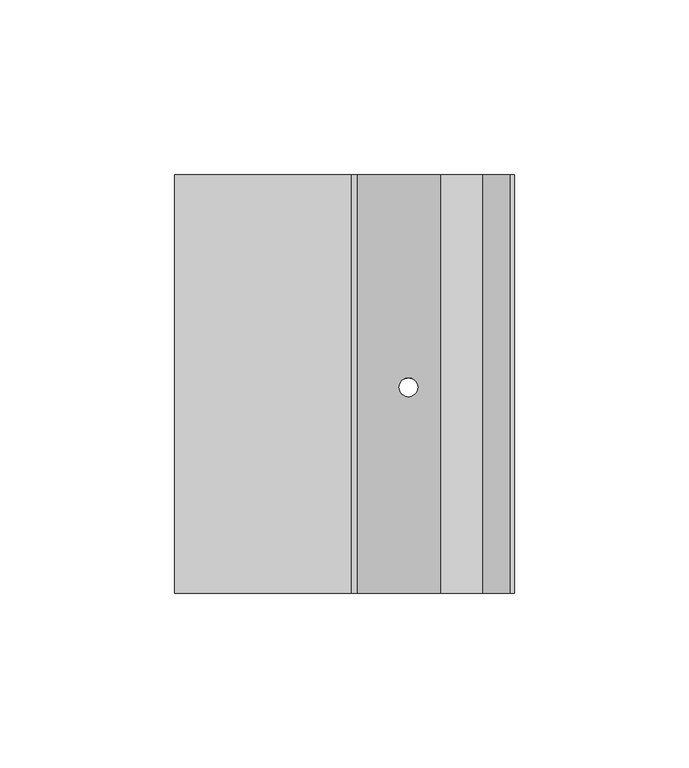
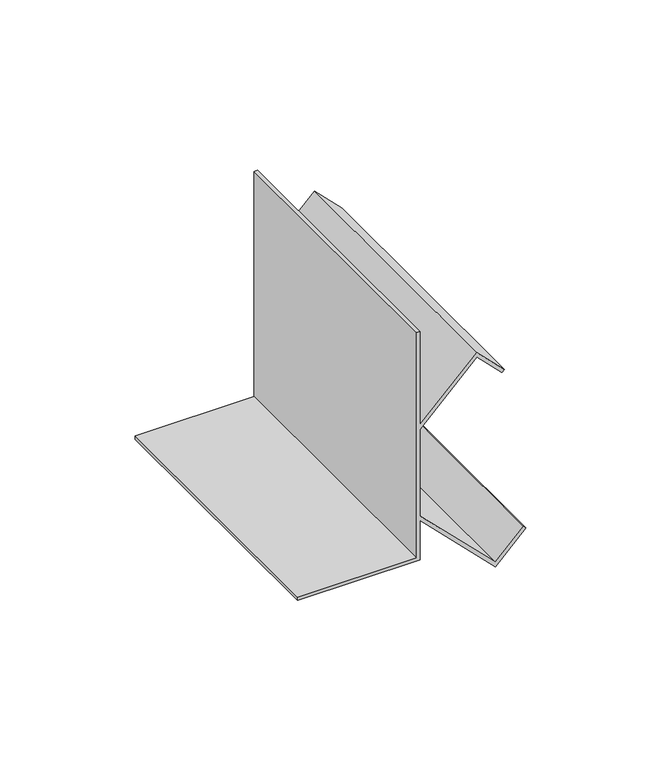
"""IFC4 building model written with IfcOpenShell, lengths in millimetres: proxy geometry, Mechanical Fittings & Accessories23 : Mechanical Fittings & Accessories."""

from ifc_helpers import new_model, si_unit, frame, origin, place, context, project, spatial, polyline, ellipse_curve, source, transform, mapped, element, save
from ifc_brep_helpers import plane_surface, revolved_surface, advanced_brep


def generic_models_94454468(model_context):
    return source(origin(), model_context, "Body", "AdvancedBrep", [
        advanced_brep(
        [(-13439.8639562, 3322.4963986, 4114.8), (-13490.6639562, 3322.4963986, 4114.8), (-13490.6639562, 3322.4963986, 4113.3117188), (-13438.375675, 3322.4963986, 4113.3117188), (-13438.375675, 3322.4963986, 4131.1383509), (-13406.265914, 3322.4963986, 4099.0285899), (-13393.2869427, 3322.4963986, 4112.0075612), (-13394.3393164, 3322.4963986, 4113.059935), (-13406.265914, 3322.4963986, 4101.1333374), (-13438.375675, 3322.4963986, 4133.2430984), (-13438.375675, 3322.4963986, 4172.2761118), (-13414.203414, 3322.4963986, 4196.4483729), (-13403.4674414, 3322.4963986, 4185.7124003), (-13402.4150677, 3322.4963986, 4186.7647741), (-13414.203414, 3322.4963986, 4198.5531204), (-13438.375675, 3322.4963986, 4174.3808594), (-13438.375675, 3322.4963986, 4216.4), (-13439.8639562, 3322.4963986, 4216.4), (-13439.8639562, 3442.4645457, 4114.8), (-13439.8639562, 3442.4645457, 4216.4), (-13438.375675, 3442.4645457, 4216.4), (-13438.375675, 3442.4645457, 4174.3808594), (-13414.203414, 3442.4645457, 4198.5531204), (-13402.4150677, 3442.4645457, 4186.7647741), (-13403.4674414, 3442.4645457, 4185.7124003), (-13414.203414, 3442.4645457, 4196.4483729), (-13438.375675, 3442.4645457, 4172.2761118), (-13438.375675, 3442.4645457, 4133.2430984), (-13406.265914, 3442.4645457, 4101.1333374), (-13394.3393164, 3442.4645457, 4113.059935), (-13393.2869427, 3442.4645457, 4112.0075612), (-13406.265914, 3442.4645457, 4099.0285899), (-13438.375675, 3442.4645457, 4131.1383509), (-13438.375675, 3442.4645457, 4113.3117188), (-13490.6639562, 3442.4645457, 4113.3117188), (-13490.6639562, 3442.4645457, 4114.8), (-13426.2617646, 3381.5191481, 4119.0244406), (-13420.9223978, 3381.5191481, 4113.6850737), (-13420.9223978, 3381.5191481, 4115.7898213), (-13426.2617646, 3381.5191481, 4121.1291881), (-13426.2617646, 3381.5191481, 4184.3900222), (-13420.9223978, 3381.5191481, 4189.729389), (-13420.9223978, 3381.5191481, 4191.8341365), (-13426.2617646, 3381.5191481, 4186.4947697)],
        [
            (0, 1),
            (1, 2),
            (2, 3),
            (3, 4),
            (4, 5),
            (5, 6),
            (6, 7),
            (7, 8),
            (8, 9),
            (9, 10),
            (10, 11),
            (11, 12),
            (12, 13),
            (13, 14),
            (14, 15),
            (15, 16),
            (16, 17),
            (17, 0),
            (18, 19),
            (19, 20),
            (20, 21),
            (21, 22),
            (22, 23),
            (23, 24),
            (24, 25),
            (25, 26),
            (26, 27),
            (27, 28),
            (28, 29),
            (29, 30),
            (30, 31),
            (31, 32),
            (32, 33),
            (33, 34),
            (34, 35),
            (35, 18),
            (0, 18),
            (35, 1),
            (34, 2),
            (33, 3),
            (32, 4),
            (31, 5),
            (36, 37, ellipse_curve(frame((-13423.5920812, 3381.5191481, 4116.3547571), z_axis=(0.7071067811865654, 0.0, 0.7071067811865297), x_axis=(-0.7071067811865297, 0.0, 0.7071067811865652)), 3.7755025, 2.6696834)),
            (37, 36, ellipse_curve(frame((-13423.5920812, 3381.5191481, 4116.3547571), z_axis=(0.7071067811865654, 0.0, 0.7071067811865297), x_axis=(-0.7071067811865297, 0.0, 0.7071067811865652)), 3.7755025, 2.6696834)),
            (30, 6),
            (29, 7),
            (28, 8),
            (27, 9),
            (38, 39, ellipse_curve(frame((-13423.5920812, 3381.5191481, 4118.4595047), z_axis=(-0.7071067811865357, 0.0, -0.7071067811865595), x_axis=(-0.7071067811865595, 0.0, 0.7071067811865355)), 3.7755025, 2.6696834)),
            (39, 38, ellipse_curve(frame((-13423.5920812, 3381.5191481, 4118.4595047), z_axis=(-0.7071067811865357, 0.0, -0.7071067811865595), x_axis=(-0.7071067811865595, 0.0, 0.7071067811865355)), 3.7755025, 2.6696834)),
            (26, 10),
            (25, 11),
            (40, 41, ellipse_curve(frame((-13423.5920812, 3381.5191481, 4187.0597056), z_axis=(-0.7071067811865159, 0.0, 0.7071067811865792), x_axis=(0.7071067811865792, 0.0, 0.7071067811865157)), 3.7755025, 2.6696834)),
            (41, 40, ellipse_curve(frame((-13423.5920812, 3381.5191481, 4187.0597056), z_axis=(-0.7071067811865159, 0.0, 0.7071067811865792), x_axis=(0.7071067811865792, 0.0, 0.7071067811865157)), 3.7755025, 2.6696834)),
            (24, 12),
            (23, 13),
            (22, 14),
            (21, 15),
            (42, 43, ellipse_curve(frame((-13423.5920812, 3381.5191481, 4189.1644531), z_axis=(0.7071067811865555, 0.0, -0.7071067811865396), x_axis=(0.7071067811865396, 0.0, 0.7071067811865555)), 3.7755025, 2.6696834)),
            (43, 42, ellipse_curve(frame((-13423.5920812, 3381.5191481, 4189.1644531), z_axis=(0.7071067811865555, 0.0, -0.7071067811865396), x_axis=(0.7071067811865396, 0.0, 0.7071067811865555)), 3.7755025, 2.6696834)),
            (20, 16),
            (19, 17),
            (36, 39),
            (38, 37),
            (40, 43),
            (42, 41),
        ],
        [
            plane_surface(frame((-13490.6639562, 3322.4963986, 4114.8), z_axis=(0.0, -1.0, 0.0), x_axis=(-1.0, 0.0, 0.0))),
            plane_surface(frame((-13490.6639562, 3442.4645457, 4114.8), z_axis=(0.0, 1.0, 0.0), x_axis=(1.0, 0.0, 0.0))),
            plane_surface(frame((-13439.8639562, 3322.4963986, 4114.8), z_axis=(0.0, 0.0, 1.0), x_axis=(0.0, 1.0, 0.0))),
            plane_surface(frame((-13490.6639562, 3322.4963986, 4114.8), z_axis=(-1.0, 0.0, 0.0), x_axis=(0.0, 1.0, 0.0))),
            plane_surface(frame((-13490.6639562, 3322.4963986, 4113.3117188), z_axis=(0.0, 0.0, -1.0), x_axis=(0.0, 1.0, 0.0))),
            plane_surface(frame((-13438.375675, 3322.4963986, 4113.3117188), z_axis=(1.0, 0.0, 0.0), x_axis=(0.0, 1.0, 0.0))),
            plane_surface(frame((-13438.375675, 3322.4963986, 4131.1383509), z_axis=(-0.7071067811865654, 0.0, -0.7071067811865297), x_axis=(0.0, 1.0, 0.0))),
            plane_surface(frame((-13406.265914, 3322.4963986, 4099.0285899), z_axis=(0.7071067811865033, 0.0, -0.7071067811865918), x_axis=(0.0, 1.0, 0.0))),
            plane_surface(frame((-13393.2869427, 3322.4963986, 4112.0075612), z_axis=(0.7071067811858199, 0.0, 0.7071067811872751), x_axis=(0.0, 1.0, 0.0))),
            plane_surface(frame((-13394.3393164, 3322.4963986, 4113.059935), z_axis=(-0.7071067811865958, 0.0, 0.7071067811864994), x_axis=(0.0, 1.0, 0.0))),
            plane_surface(frame((-13406.265914, 3322.4963986, 4101.1333374), z_axis=(0.7071067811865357, 0.0, 0.7071067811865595), x_axis=(0.0, 1.0, 0.0))),
            plane_surface(frame((-13438.375675, 3322.4963986, 4133.2430984), z_axis=(1.0, 0.0, 0.0), x_axis=(0.0, 1.0, 0.0))),
            plane_surface(frame((-13438.375675, 3322.4963986, 4172.2761118), z_axis=(0.7071067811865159, 0.0, -0.7071067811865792), x_axis=(0.0, 1.0, 0.0))),
            plane_surface(frame((-13414.203414, 3322.4963986, 4196.4483729), z_axis=(-0.7071067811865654, 0.0, -0.7071067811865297), x_axis=(0.0, 1.0, 0.0))),
            plane_surface(frame((-13403.4674414, 3322.4963986, 4185.7124003), z_axis=(0.7071067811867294, 0.0, -0.7071067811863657), x_axis=(0.0, 1.0, 0.0))),
            plane_surface(frame((-13402.4150677, 3322.4963986, 4186.7647741), z_axis=(0.7071067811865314, 0.0, 0.7071067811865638), x_axis=(0.0, 1.0, 0.0))),
            plane_surface(frame((-13414.203414, 3322.4963986, 4198.5531204), z_axis=(-0.7071067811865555, 0.0, 0.7071067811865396), x_axis=(0.0, 1.0, 0.0))),
            plane_surface(frame((-13438.375675, 3322.4963986, 4174.3808594), z_axis=(1.0, 0.0, 0.0), x_axis=(0.0, 1.0, 0.0))),
            plane_surface(frame((-13438.375675, 3322.4963986, 4216.4), z_axis=(0.0, 0.0, 1.0), x_axis=(0.0, 1.0, 0.0))),
            plane_surface(frame((-13439.8639562, 3322.4963986, 4216.4), z_axis=(-1.0, 0.0, 0.0), x_axis=(0.0, 1.0, 0.0))),
            revolved_surface(polyline([(-13420.9223978, 3381.5191481, 4121.129188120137), (-13420.9223978, 3381.5191481, 4113.685073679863)]), (-13423.5920812, 3381.5191481, 4097.2034211), (0.0, 0.0, 1.0)),
            revolved_surface(polyline([(-13420.9223978, 3381.5191481, 4191.834136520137), (-13420.9223978, 3381.5191481, 4184.390022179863)]), (-13423.5920812, 3381.5191481, 4097.2034211), (0.0, 0.0, 1.0)),
        ],
        [
            (0, [[1, 2, 3, 4, 5, 6, 7, 8, 9, 10, 11, 12, 13, 14, 15, 16, 17, 18]]),
            (1, [[19, 20, 21, 22, 23, 24, 25, 26, 27, 28, 29, 30, 31, 32, 33, 34, 35, 36]]),
            (2, [[-1, 37, -36, 38]]),
            (3, [[-2, -38, -35, 39]]),
            (4, [[-3, -39, -34, 40]]),
            (5, [[-4, -40, -33, 41]]),
            (6, [[-5, -41, -32, 42], [43, 44]]),
            (7, [[-6, -42, -31, 45]]),
            (8, [[-7, -45, -30, 46]]),
            (9, [[-8, -46, -29, 47]]),
            (10, [[-9, -47, -28, 48], [49, 50]]),
            (11, [[-10, -48, -27, 51]]),
            (12, [[-11, -51, -26, 52], [53, 54]]),
            (13, [[-12, -52, -25, 55]]),
            (14, [[-13, -55, -24, 56]]),
            (15, [[-14, -56, -23, 57]]),
            (16, [[-15, -57, -22, 58], [59, 60]]),
            (17, [[-16, -58, -21, 61]]),
            (18, [[-17, -61, -20, 62]]),
            (19, [[-18, -62, -19, -37]]),
            (20, [[63, -49, 64, -43]]),
            (21, [[65, -59, 66, -53]]),
            (20, [[-63, -44, -64, -50]]),
            (21, [[-65, -54, -66, -60]]),
        ],
    ),
    ])


if __name__ == "__main__":
    model = new_model("IFC4")
    model_context = context("Model", 3, world=origin())
    ifc_project = project(units=[si_unit("LENGTHUNIT", "METRE", prefix="MILLI")], contexts=[model_context])
    site = spatial("IfcSite", under=ifc_project)
    building = spatial("IfcBuilding", under=site)
    placement = place(None, origin())
    generic_models_shape = generic_models_94454468(model_context)
    element("IfcBuildingElementProxy", 1, Name="Mechanical Fittings & Accessories23 : Mechanical Fittings & Accessories", ObjectType="Mechanical Fittings & Accessories23 : Mechanical Fittings & Accessories", at=placement, inside=building, context=model_context, shape_type="MappedRepresentation", body=[
        mapped(generic_models_shape, transform((0.0, 0.0, 0.0), x_axis=(1.0, 0.0, 0.0), y_axis=(0.0, 1.0, 0.0), z_axis=(0.0, 0.0, 1.0))),
    ])
    save(model, "model.ifc")
